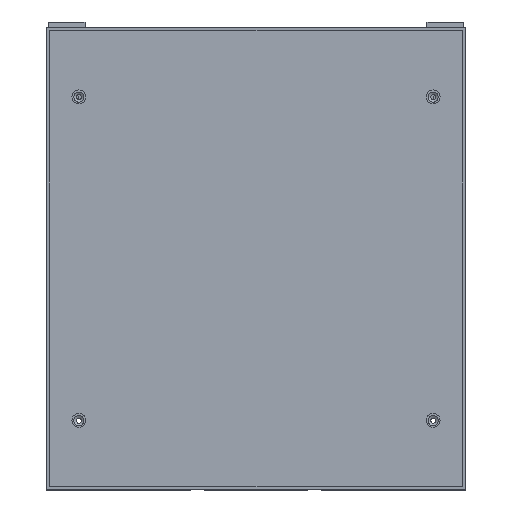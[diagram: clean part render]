
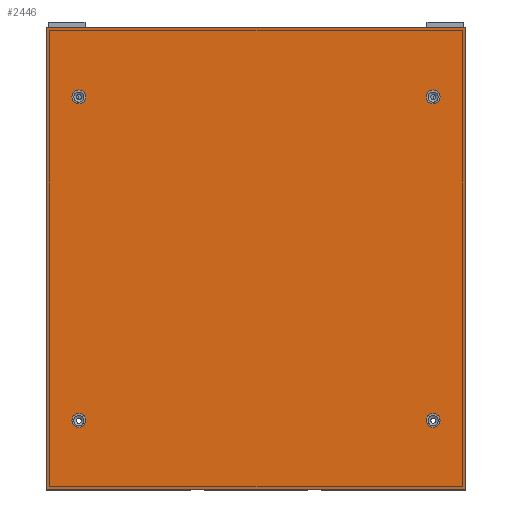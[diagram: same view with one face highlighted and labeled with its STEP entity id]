
A CAD part, top view. The second image highlights one B-rep face of the part: STEP entity #2446.
In plain terms, the highlighted planar face has unit normal (0, 0, 1).
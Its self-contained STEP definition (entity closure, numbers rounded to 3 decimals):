
#673=FACE_BOUND('',#4434,.T.);
#674=FACE_BOUND('',#4435,.T.);
#675=FACE_BOUND('',#4436,.T.);
#676=FACE_BOUND('',#4437,.T.);
#677=FACE_BOUND('',#4438,.T.);
#1626=CIRCLE('',#16135,2.25);
#1627=CIRCLE('',#16136,2.25);
#1628=CIRCLE('',#16137,2.25);
#1629=CIRCLE('',#16138,2.25);
#2446=ADVANCED_FACE('',(#673,#674,#675,#676,#677),#3226,.F.);
#3226=PLANE('',#16139);
#4434=EDGE_LOOP('',(#6499));
#4435=EDGE_LOOP('',(#6500));
#4436=EDGE_LOOP('',(#6501));
#4437=EDGE_LOOP('',(#6502));
#4438=EDGE_LOOP('',(#6503,#6504,#6505,#6506));
#6499=ORIENTED_EDGE('',*,*,#11976,.F.);
#6500=ORIENTED_EDGE('',*,*,#11977,.F.);
#6501=ORIENTED_EDGE('',*,*,#11978,.F.);
#6502=ORIENTED_EDGE('',*,*,#11979,.F.);
#6503=ORIENTED_EDGE('',*,*,#11629,.F.);
#6504=ORIENTED_EDGE('',*,*,#11980,.F.);
#6505=ORIENTED_EDGE('',*,*,#11541,.F.);
#6506=ORIENTED_EDGE('',*,*,#11981,.F.);
#9991=VERTEX_POINT('',#23208);
#9992=VERTEX_POINT('',#23210);
#10054=VERTEX_POINT('',#23378);
#10055=VERTEX_POINT('',#23380);
#10273=VERTEX_POINT('',#24073);
#10274=VERTEX_POINT('',#24075);
#10275=VERTEX_POINT('',#24077);
#10276=VERTEX_POINT('',#24079);
#11541=EDGE_CURVE('',#9991,#9992,#13552,.T.);
#11629=EDGE_CURVE('',#10054,#10055,#13622,.T.);
#11976=EDGE_CURVE('',#10273,#10273,#1626,.T.);
#11977=EDGE_CURVE('',#10274,#10274,#1627,.T.);
#11978=EDGE_CURVE('',#10275,#10275,#1628,.T.);
#11979=EDGE_CURVE('',#10276,#10276,#1629,.T.);
#11980=EDGE_CURVE('',#9992,#10054,#13830,.T.);
#11981=EDGE_CURVE('',#10055,#9991,#13831,.T.);
#13552=LINE('',#23209,#14694);
#13622=LINE('',#23379,#14764);
#13830=LINE('',#24080,#14972);
#13831=LINE('',#24081,#14973);
#14694=VECTOR('',#17905,1.);
#14764=VECTOR('',#18049,1.);
#14972=VECTOR('',#18799,1.);
#14973=VECTOR('',#18800,1.);
#16135=AXIS2_PLACEMENT_3D('',#24072,#18791,#18792);
#16136=AXIS2_PLACEMENT_3D('',#24074,#18793,#18794);
#16137=AXIS2_PLACEMENT_3D('',#24076,#18795,#18796);
#16138=AXIS2_PLACEMENT_3D('',#24078,#18797,#18798);
#16139=AXIS2_PLACEMENT_3D('',#24082,#18801,#18802);
#17905=DIRECTION('',(0.,1.,0.));
#18049=DIRECTION('',(0.,-1.,0.));
#18791=DIRECTION('',(0.,0.,1.));
#18792=DIRECTION('',(-1.,0.,0.));
#18793=DIRECTION('',(0.,0.,1.));
#18794=DIRECTION('',(1.,0.,0.));
#18795=DIRECTION('',(0.,0.,1.));
#18796=DIRECTION('',(-1.,0.,0.));
#18797=DIRECTION('',(0.,0.,1.));
#18798=DIRECTION('',(1.,0.,0.));
#18799=DIRECTION('',(1.,0.,0.));
#18800=DIRECTION('',(-1.,0.,0.));
#18801=DIRECTION('',(0.,0.,-1.));
#18802=DIRECTION('',(1.,0.,0.));
#23208=CARTESIAN_POINT('',(-68.,-78.,193.));
#23209=CARTESIAN_POINT('',(-68.,72.,193.));
#23210=CARTESIAN_POINT('',(-68.,72.,193.));
#23378=CARTESIAN_POINT('',(68.,72.,193.));
#23379=CARTESIAN_POINT('',(68.,72.,193.));
#23380=CARTESIAN_POINT('',(68.,-78.,193.));
#24072=CARTESIAN_POINT('',(-57.5,-55.5,193.));
#24073=CARTESIAN_POINT('',(-59.75,-55.5,193.));
#24074=CARTESIAN_POINT('',(57.5,-55.5,193.));
#24075=CARTESIAN_POINT('',(59.75,-55.5,193.));
#24076=CARTESIAN_POINT('',(57.5,49.5,193.));
#24077=CARTESIAN_POINT('',(55.25,49.5,193.));
#24078=CARTESIAN_POINT('',(-57.5,49.5,193.));
#24079=CARTESIAN_POINT('',(-55.25,49.5,193.));
#24080=CARTESIAN_POINT('',(68.,72.,193.));
#24081=CARTESIAN_POINT('',(68.,-78.,193.));
#24082=CARTESIAN_POINT('',(0.,-3.,193.));
